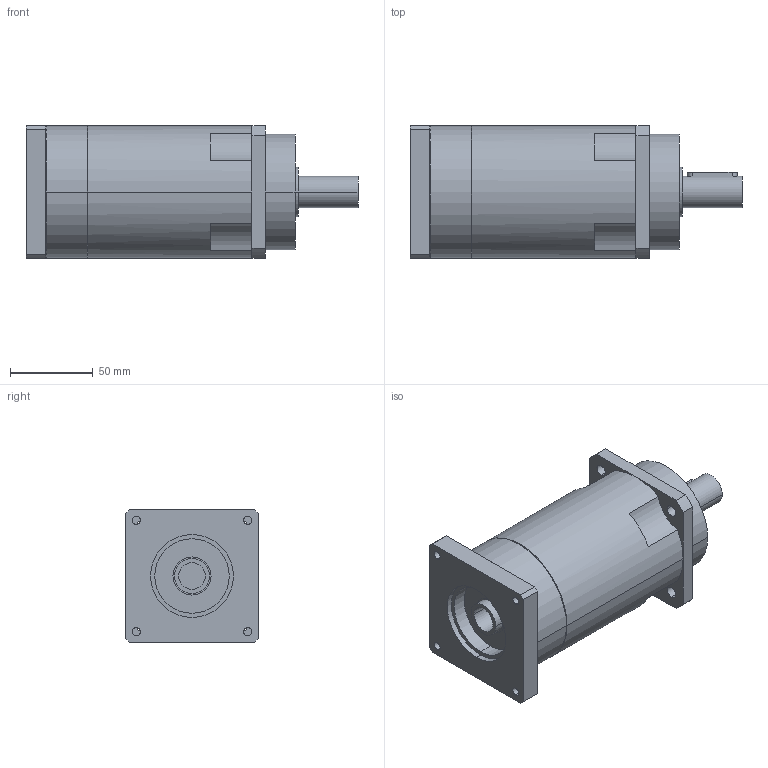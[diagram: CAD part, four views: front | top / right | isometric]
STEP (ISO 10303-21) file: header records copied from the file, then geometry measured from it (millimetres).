
FILE_DESCRIPTION(('CoCreate Modeling STEP Export'),'2;1');
FILE_NAME('GPR100_ig-48-64-80-100-120-144-180-216_19_B5_16_P21.stp','2014-08-26T11:55:49',(''),(''),'CoCreate Modeling STEP processor for AP214 (Solid Model)','CoCreate Modeling 16.00C 25-Feb-2009 (C) Parametric Technology GmbH','');
FILE_SCHEMA(('AUTOMOTIVE_DESIGN { 1 0 10303 214 1 1 1 1 }'));
Length unit declared in the file: millimetre
Products named in the file (2): GPR100_ig-48-64-80-100-120-144-180-216_19_B5_16_P21
Assembly tree (1 placements, depth 2):
  GPR100_ig-48-64-80-100-120-144-180-216_19_B5_16_P21
    GPR100_ig-48-64-80-100-120-144-180-216_19_B5_16_P21
Bounding box: 200.4 x 80 x 80 mm (x, y, z)
Volume: 797551.3 mm3; surface area: 65511.4 mm2
Topology: 1 solids, 1 shells, 89 faces, 245 edges, 167 vertices
Faces by surface type: cylinder 52, plane 31, cone 6
Entity records: 2602 total; most frequent: ORIENTED_EDGE 486, CARTESIAN_POINT 472, DIRECTION 386, EDGE_CURVE 243, VERTEX_POINT 167, AXIS2_PLACEMENT_3D 145, EDGE_LOOP 116, VECTOR 96
